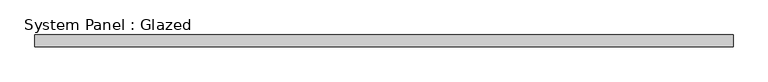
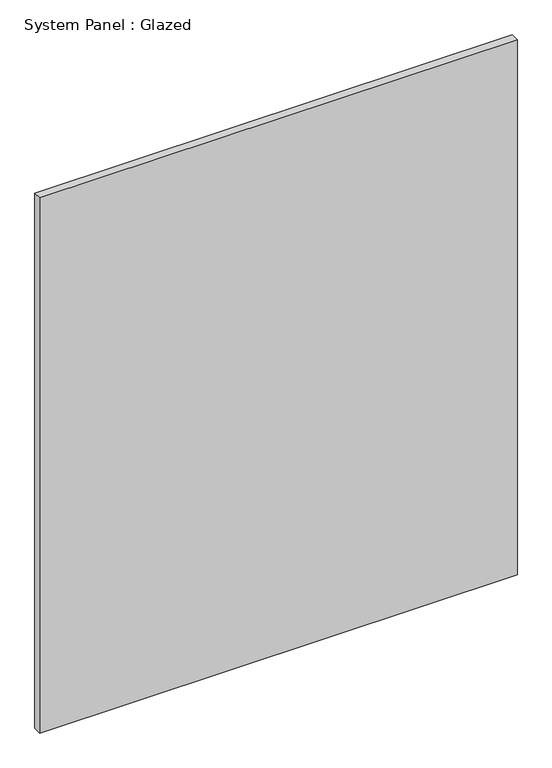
"""IFC4 building model written with IfcOpenShell, lengths in millimetres: plate geometry, System Panel : Glazed."""

from ifc_helpers import new_model, si_unit, origin, origin_with_axes, place, context, project, spatial, polyline, outline, extrude, source, transform, mapped, element, save


def system_panel_glazed_e29575fd(model_context):
    return source(origin(), model_context, "Body", "SweptSolid", [
        extrude(outline(polyline([(753.5333333, -12.7), (-753.5333333, -12.7), (-753.5333333, 12.7), (753.5333333, 12.7), (753.5333333, -12.7)])), origin_with_axes(), (0.0, 0.0, 1.0), 1784.35),
    ])


if __name__ == "__main__":
    model = new_model("IFC4")
    model_context = context("Model", 3, world=origin())
    ifc_project = project(units=[si_unit("LENGTHUNIT", "METRE", prefix="MILLI")], contexts=[model_context])
    site = spatial("IfcSite", under=ifc_project)
    building = spatial("IfcBuilding", under=site)
    placement = place(None, origin())
    system_panel_glazed_shape = system_panel_glazed_e29575fd(model_context)
    element("IfcPlate", 1, ObjectType="System Panel : Glazed", at=placement, inside=building, context=model_context, shape_type="MappedRepresentation", body=[
        mapped(system_panel_glazed_shape, transform((0.0, 0.0, 0.0), x_axis=(1.0, 0.0, 0.0), y_axis=(0.0, 1.0, 0.0), z_axis=(0.0, 0.0, 1.0))),
    ])
    save(model, "model.ifc")
